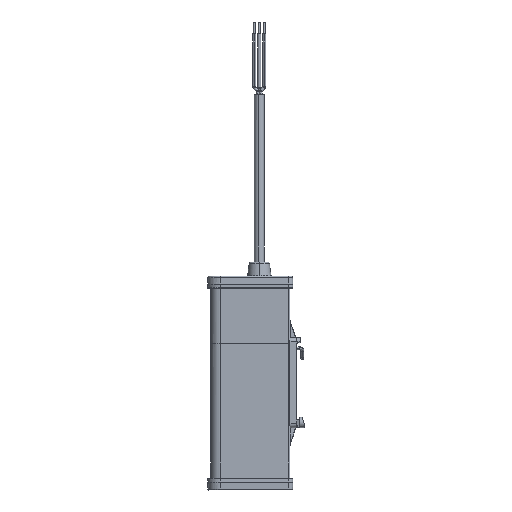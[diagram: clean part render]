
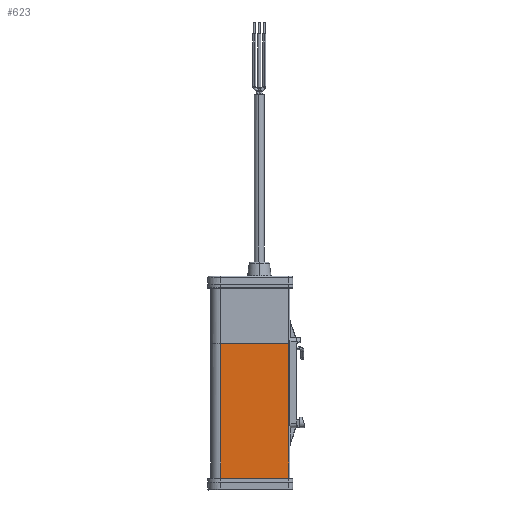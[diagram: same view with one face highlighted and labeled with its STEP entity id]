
A CAD part, left-side view. The second image highlights one B-rep face of the part: STEP entity #623.
In plain terms, the highlighted planar face has unit normal (-1, 0, 0).
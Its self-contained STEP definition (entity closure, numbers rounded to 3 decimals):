
#623=ADVANCED_FACE('',(#1412),#12497,.T.);
#1412=FACE_OUTER_BOUND('',#2218,.T.);
#2218=EDGE_LOOP('',(#5324,#5325,#5326,#5327));
#5324=ORIENTED_EDGE('',*,*,#8091,.T.);
#5325=ORIENTED_EDGE('',*,*,#8092,.T.);
#5326=ORIENTED_EDGE('',*,*,#8093,.T.);
#5327=ORIENTED_EDGE('',*,*,#8016,.T.);
#8016=EDGE_CURVE('',#11847,#11846,#9465,.T.);
#8091=EDGE_CURVE('',#11846,#11896,#9515,.T.);
#8092=EDGE_CURVE('',#11896,#11895,#9516,.T.);
#8093=EDGE_CURVE('',#11895,#11847,#9517,.T.);
#9465=B_SPLINE_CURVE_WITH_KNOTS('',1,(#30371,#30372),.UNSPECIFIED.,.F.,
 .F.,(2,2),(0.,34.5),.UNSPECIFIED.);
#9515=B_SPLINE_CURVE_WITH_KNOTS('',1,(#30569,#30570),.UNSPECIFIED.,.F.,
 .F.,(2,2),(0.,70.),.UNSPECIFIED.);
#9516=B_SPLINE_CURVE_WITH_KNOTS('',1,(#30571,#30572),.UNSPECIFIED.,.F.,
 .F.,(2,2),(-34.5,0.),.UNSPECIFIED.);
#9517=B_SPLINE_CURVE_WITH_KNOTS('',1,(#30573,#30574),.UNSPECIFIED.,.F.,
 .F.,(2,2),(0.,70.),.UNSPECIFIED.);
#11846=VERTEX_POINT('',#30297);
#11847=VERTEX_POINT('',#30298);
#11895=VERTEX_POINT('',#30346);
#11896=VERTEX_POINT('',#30347);
#12497=PLANE('',#13546);
#13546=AXIS2_PLACEMENT_3D('',#30272,#14064,$);
#14064=DIRECTION('',(-1.,0.,0.));
#30272=CARTESIAN_POINT('',(87.5,-20.051,-23.45));
#30297=CARTESIAN_POINT('',(87.5,17.9,-30.451));
#30298=CARTESIAN_POINT('',(87.5,-16.6,-30.451));
#30346=CARTESIAN_POINT('',(87.5,-16.6,-100.451));
#30347=CARTESIAN_POINT('',(87.5,17.9,-100.451));
#30371=CARTESIAN_POINT('',(87.5,-16.6,-30.451));
#30372=CARTESIAN_POINT('',(87.5,17.9,-30.451));
#30569=CARTESIAN_POINT('',(87.5,17.9,-30.451));
#30570=CARTESIAN_POINT('',(87.5,17.9,-100.451));
#30571=CARTESIAN_POINT('',(87.5,17.9,-100.451));
#30572=CARTESIAN_POINT('',(87.5,-16.6,-100.451));
#30573=CARTESIAN_POINT('',(87.5,-16.6,-100.451));
#30574=CARTESIAN_POINT('',(87.5,-16.6,-30.451));
